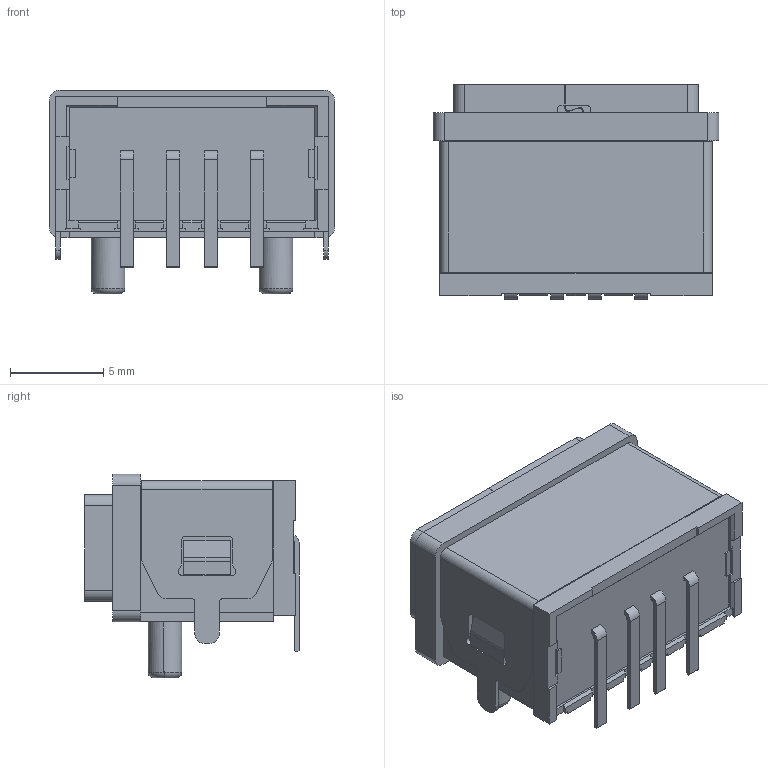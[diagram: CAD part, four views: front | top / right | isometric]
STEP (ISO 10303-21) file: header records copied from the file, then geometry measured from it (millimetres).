
FILE_DESCRIPTION((''),'2;1');
FILE_NAME('L000892_IP68_USB_2_0_A_TYPE_FDW','2026-06-04T',('PMT1 SFT'),(''),'PRO/ENGINEER BY PARAMETRIC TECHNOLOGY CORPORATION, 2011490','PRO/ENGINEER BY PARAMETRIC TECHNOLOGY CORPORATION, 2011490','');
FILE_SCHEMA(('CONFIG_CONTROL_DESIGN'));
Length unit declared in the file: millimetre
Products named in the file (1): L000892_IP68_USB_2_0_A_TYPE_FDW
Bounding box: 15.3 x 11.49 x 10.92 mm (x, y, z)
Volume: 593.7 mm3; surface area: 2387.7 mm2
Topology: 1 solids, 2 shells, 1043 faces, 2902 edges, 1864 vertices
Faces by surface type: plane 569, cylinder 348, bspline 92, torus 24, cone 10
Entity records: 36404 total; most frequent: CARTESIAN_POINT 9822, ORIENTED_EDGE 5800, DIRECTION 5258, EDGE_CURVE 2902, VECTOR 1962, LINE 1962, VERTEX_POINT 1864, AXIS2_PLACEMENT_3D 1648
